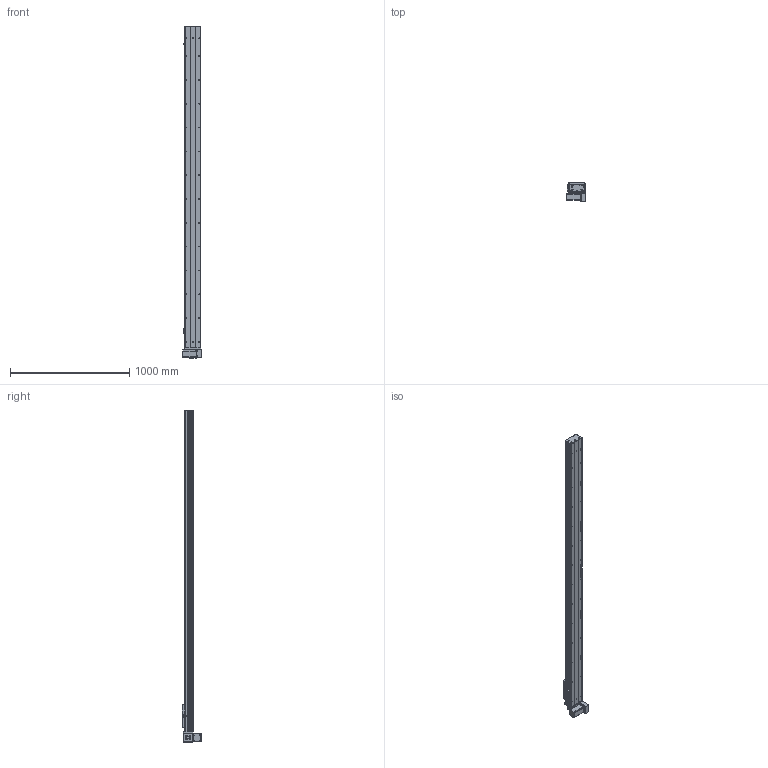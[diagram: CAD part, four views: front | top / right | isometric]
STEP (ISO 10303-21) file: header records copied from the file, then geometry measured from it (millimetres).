
FILE_DESCRIPTION (( 'STEP AP203' ), '1' );
FILE_NAME ('Y135CB-D90-S2400-BM-P400W.STEP', '2020-02-19T01:51:00', ( '微软用户' ), ( '微软中国' ), 'SwSTEP 2.0', 'SolidWorks 2017', '' );
FILE_SCHEMA (( 'CONFIG_CONTROL_DESIGN' ));
Length unit declared in the file: millimetre
Products named in the file (18): Y135CB-D90-S2400-BM-P400W; 135CB--詩湍-CE; 135CB---遴掛极.-; Y100-135俋离換覜ん--; 35CB---喘謫眊楊擘啣; Y135C-陔俋离換覜結え-; 0B-埴倛裔啣; 5C--俋欶; 0B-源倛裔啣; C-雄赽釱--; 0B-萇儂楊擘啣; Y10B--々湍喘謫眊--666; san松下电机400不带刹车----; 00B-俋欶BM--; 5CB --掛极耜裔啣-; Y10B-耜蚾蟀諉啣----; C-詩湍揤踡え-陔; Y135CB-耜裔
Assembly tree (21 placements, depth 2):
  Y135CB-D90-S2400-BM-P400W
    Y135CB-耜裔
    135CB---遴掛极.-
    35CB---喘謫眊楊擘啣
    0B-埴倛裔啣
    0B-源倛裔啣
    0B-萇儂楊擘啣
    san松下电机400不带刹车----
    5CB --掛极耜裔啣-  x2
    C-詩湍揤踡え-陔  x2
    135CB--詩湍-CE
    Y100-135俋离換覜ん--  x3
    Y135C-陔俋离換覜結え-
    5C--俋欶
    C-雄赽釱--
    Y10B--々湍喘謫眊--666
    00B-俋欶BM--
    Y10B-耜蚾蟀諉啣----
Bounding box: 157 x 163.3 x 2788 mm (x, y, z)
Volume: 8022128.4 mm3; surface area: 3175751.1 mm2
Topology: 21 solids, 21 shells, 973 faces, 2653 edges, 1758 vertices
Faces by surface type: cylinder 501, plane 456, cone 16
Entity records: 30763 total; most frequent: CARTESIAN_POINT 5120, DIRECTION 5113, ORIENTED_EDGE 4782, EDGE_CURVE 2391, AXIS2_PLACEMENT_3D 1875, VERTEX_POINT 1586, VECTOR 1363, LINE 1363
